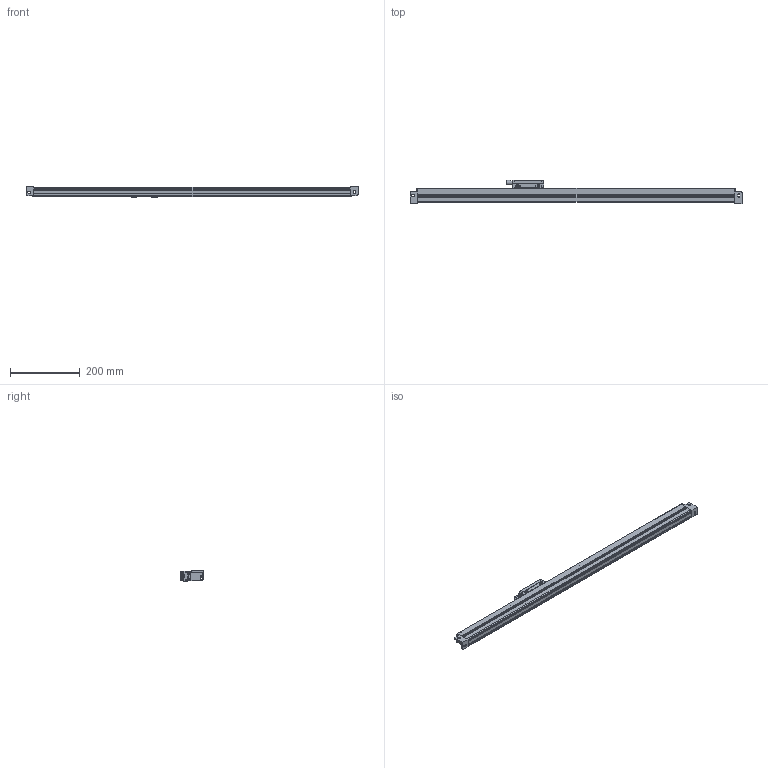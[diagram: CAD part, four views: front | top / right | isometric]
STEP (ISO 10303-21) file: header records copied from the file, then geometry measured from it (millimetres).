
FILE_DESCRIPTION (( 'STEP AP214' ), '1' );
FILE_NAME ('JCXE-L-0800.STEP', '2021-12-16T02:58:19', ( '微软用户' ), ( '微软中国' ), 'SwSTEP 2.0', 'SolidWorks 2010', '' );
FILE_SCHEMA (( 'AUTOMOTIVE_DESIGN' ));
Length unit declared in the file: millimetre
Products named in the file (7): MSBR-5_1-1; PRT0002; MSBR-4_1-1; MSBR-3_1-1; MSBR-2_1-1; 嫖掑喜旯L1200; JCXE-L-0800
Assembly tree (6 placements, depth 2):
  JCXE-L-0800
    MSBR-5_1-1
    PRT0002
    MSBR-4_1-1
    MSBR-3_1-1
    MSBR-2_1-1
    嫖掑喜旯L1200
Bounding box: 954 x 66.8 x 29.5 mm (x, y, z)
Volume: 462090.9 mm3; surface area: 303729.1 mm2
Topology: 6 solids, 6 shells, 547 faces, 1493 edges, 984 vertices
Faces by surface type: plane 331, cylinder 161, cone 27, bspline 25, sphere 3
Entity records: 18988 total; most frequent: CARTESIAN_POINT 4706, ORIENTED_EDGE 2978, DIRECTION 2838, EDGE_CURVE 1489, LINE 1018, VECTOR 1018, VERTEX_POINT 982, AXIS2_PLACEMENT_3D 910
